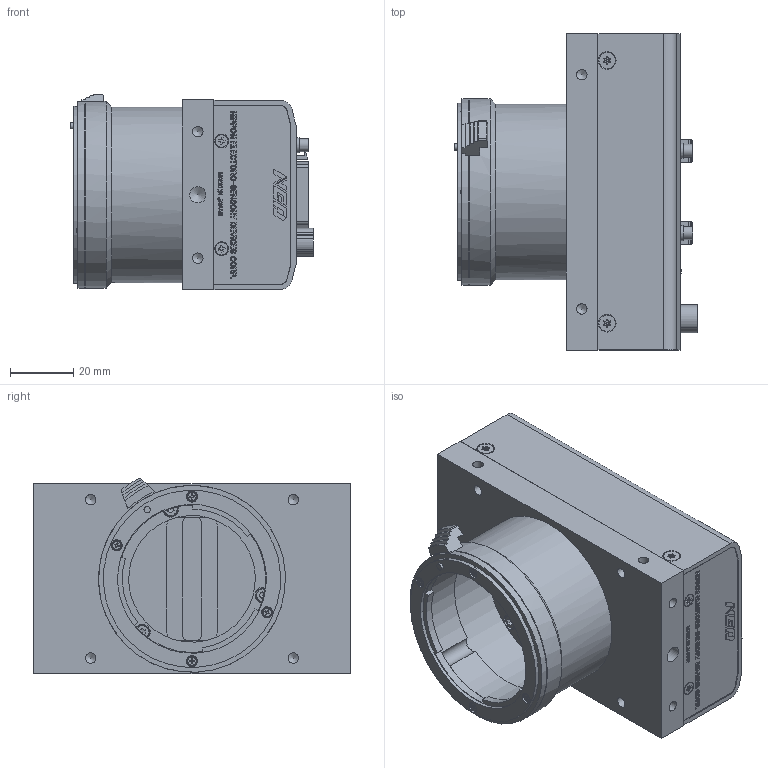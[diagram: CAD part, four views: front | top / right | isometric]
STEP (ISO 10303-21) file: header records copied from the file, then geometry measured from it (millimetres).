
FILE_DESCRIPTION (( 'STEP AP214' ), '1' );
FILE_NAME ('C5-1021-02-42／XCM4085SHT4-V1／外観モデル.STEP', '2017-11-09T02:33:35', ( '' ), ( '' ), 'SwSTEP 2.0', 'SolidWorks 2016', '' );
FILE_SCHEMA (( 'AUTOMOTIVE_DESIGN' ));
Length unit declared in the file: millimetre
Products named in the file (1): C5-1021-02-42／XCM4085SHT4-V1／外観モデル
Bounding box: 76.69 x 100 x 61.8 mm (x, y, z)
Volume: 108104 mm3; surface area: 66497.4 mm2
Topology: 1 solids, 26 shells, 3020 faces, 8097 edges, 5388 vertices
Faces by surface type: plane 1840, bspline 787, cylinder 302, cone 87, torus 4
Full cylindrical faces by diameter (mm): 0.611 x6, 0.762 x4, 1.6 x8, 2 x6, 2.05 x6, 2.2 x4, 2.261 x4, 2.4 x4, 2.5 x4, 2.6 x3, 2.8 x7, 3 x4, 3.2 x1, 3.3 x12, 3.5 x5, 4 x4, 4.1 x4, 4.5 x3, 4.8 x4, 5 x4, 5.105 x1, 5.2 x4, 8 x1, 8.85 x1, 11 x1, 11.2 x1, 40 x1, 42 x1, 47 x1, 51.5 x1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
Entity records: 149441 total; most frequent: CARTESIAN_POINT 46926, ORIENTED_EDGE 15614, DIRECTION 11298, EDGE_CURVE 7807, VECTOR 5444, LINE 5444, VERTEX_POINT 5291, EDGE_LOOP 3504
